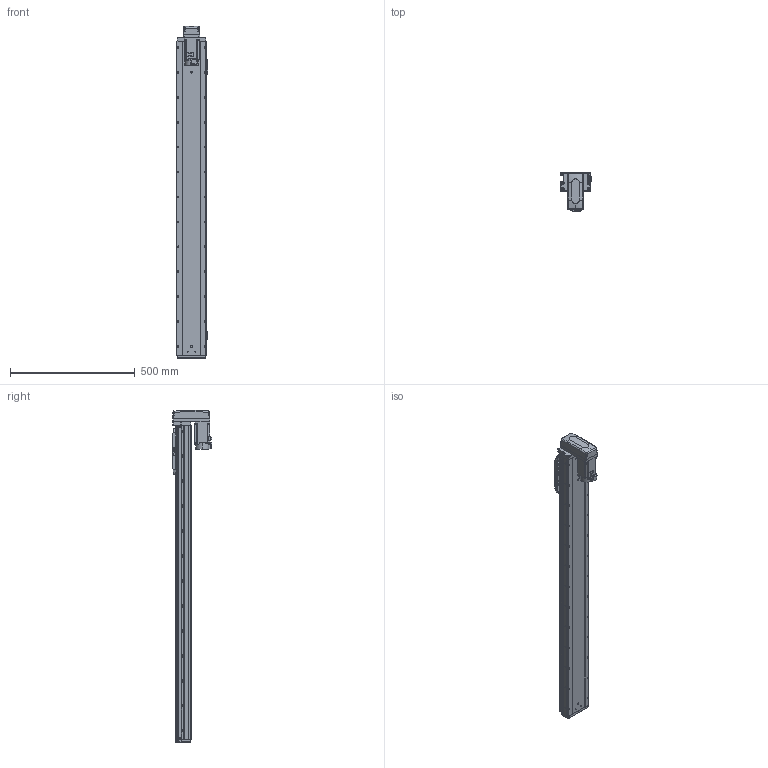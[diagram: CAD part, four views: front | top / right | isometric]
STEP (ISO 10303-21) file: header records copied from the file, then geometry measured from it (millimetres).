
FILE_DESCRIPTION (( 'STEP AP203' ), '1' );
FILE_NAME ('GTH12-1050-BM-M40-C4.step', '2022-09-29T02:00:02', ( '微软用户' ), ( '微软中国' ), 'SwSTEP 2.0', 'SolidWorks 2020', '' );
FILE_SCHEMA (( 'CONFIG_CONTROL_DESIGN' ));
Length unit declared in the file: millimetre
Products named in the file (18): GTH120-013; GTH50-024; GBT 70.1-M3℅6; GBT96.1-2002 3×0.8; GBT 70.1-M5×16; BTH-M3X5X6; GTH120-001_1050; GBT 70.3-M3℅8; hg-kn43j_-s100_; GTH120-003; GTH80-022; CTHA86-033_M40B; GTH120-006; GTH80-028; GTH120-027-1_GTH120-027-2; GTH120-004; GTH50-023; GTH12-1050-BM-M40-C4
Assembly tree (59 placements, depth 2):
  GTH12-1050-BM-M40-C4
    GTH120-001_1050
    GTH120-003
    GTH120-006
    GTH120-004
    GTH120-013
    GBT 70.1-M3℅6  x14
    GBT 70.1-M5×16  x10
    GBT 70.3-M3℅8  x4
    GTH80-022
    GTH80-028  x2
    GTH50-023  x3
    GTH50-024  x3
    GBT96.1-2002 3×0.8  x6
    BTH-M3X5X6  x8
    hg-kn43j_-s100_
    CTHA86-033_M40B
    GTH120-027-1_GTH120-027-2
Bounding box: 125.7 x 159.8 x 1332 mm (x, y, z)
Volume: 9469878.4 mm3; surface area: 799370 mm2
Topology: 61 solids, 61 shells, 2543 faces, 5960 edges, 3659 vertices
Faces by surface type: plane 1294, cylinder 753, cone 308, torus 174, sphere 8, bspline 6
Entity records: 48726 total; most frequent: CARTESIAN_POINT 8292, DIRECTION 8100, ORIENTED_EDGE 7530, EDGE_CURVE 3765, AXIS2_PLACEMENT_3D 2832, VECTOR 2436, LINE 2436, VERTEX_POINT 2380
